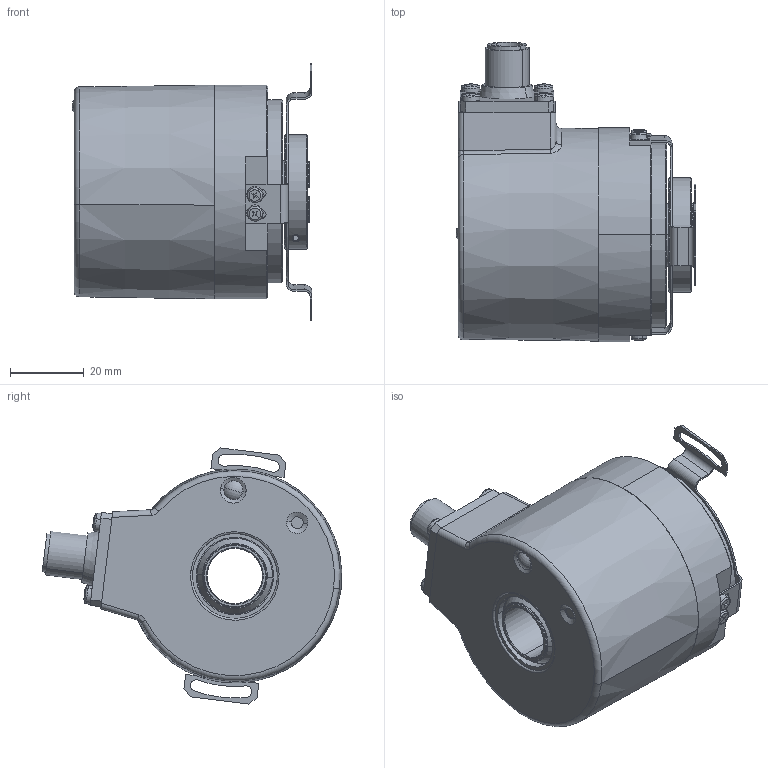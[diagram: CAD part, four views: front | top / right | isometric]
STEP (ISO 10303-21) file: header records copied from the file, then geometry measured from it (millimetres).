
FILE_DESCRIPTION (( 'STEP AP203' ), '1' );
FILE_NAME ('8.F5883.5626.GXX2.STEP', '2013-01-16T08:37:53', ( 'Hodot' ), ( '' ), 'SwSTEP 2.0', 'SolidWorks 2012', '' );
FILE_SCHEMA (( 'CONFIG_CONTROL_DESIGN' ));
Length unit declared in the file: millimetre
Products named in the file (1): 8.F5883.5626.GXX2
Bounding box: 65.07 x 81.25 x 69.44 mm (x, y, z)
Volume: 75174.3 mm3; surface area: 54685 mm2
Topology: 20 solids, 21 shells, 1098 faces, 2726 edges, 1663 vertices
Faces by surface type: cylinder 352, plane 350, cone 210, torus 95, sphere 67, bspline 24
Entity records: 34518 total; most frequent: CARTESIAN_POINT 8759, DIRECTION 5661, ORIENTED_EDGE 5166, EDGE_CURVE 2583, AXIS2_PLACEMENT_3D 2287, VERTEX_POINT 1611, EDGE_LOOP 1260, CIRCLE 1212
